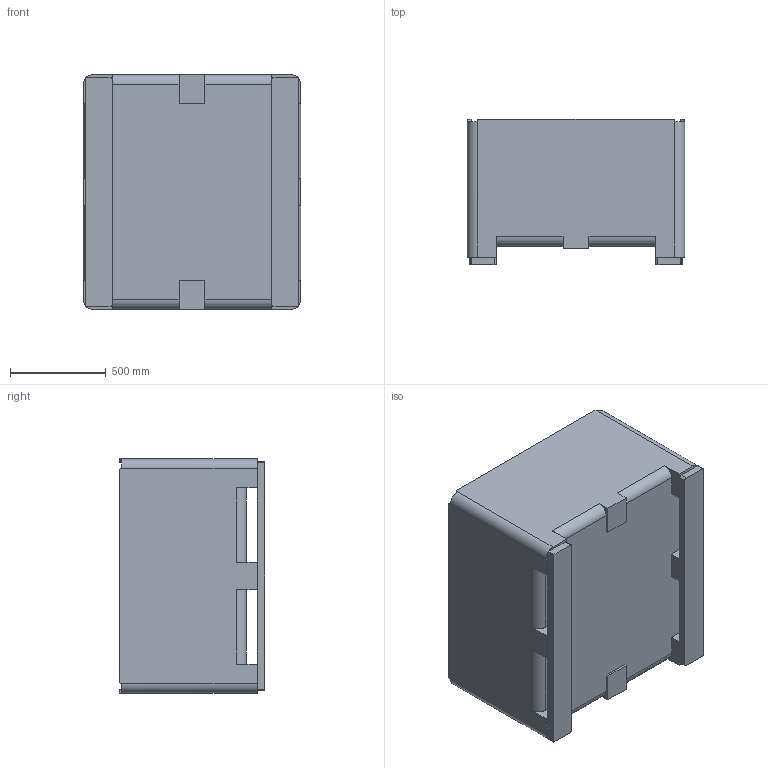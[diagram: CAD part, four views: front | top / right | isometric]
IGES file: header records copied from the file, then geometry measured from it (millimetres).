
Start section: SolidWorks IGES file using analytic representation for surfaces
Global section: file name: C:\Users\bconder\Documents\Production Models\MacroBins\32FV\32FV Block Model.IGS; native system: SolidWorks 2013; preprocessor: SolidWorks 2013; author: bconder; date: 130603.104555; units: inch
Bounding box: 1136.65 x 758.83 x 1225.55 mm (x, y, z)
Surface area: 9208837.8 mm2 (no closed solid volume)
Topology: 0 solids, 0 shells, 99 faces, 1240 edges, 1240 vertices
Faces by surface type: bspline 67, revolution 32
